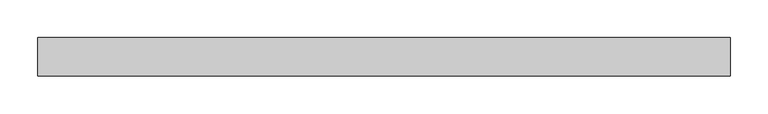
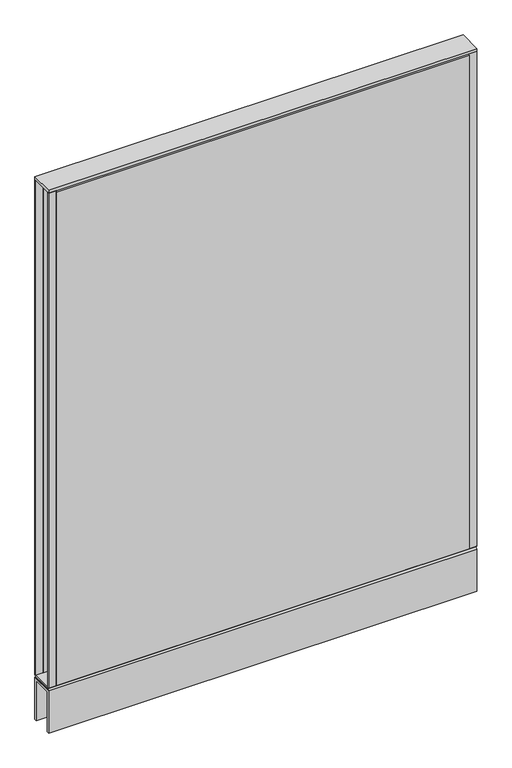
"""IFC4 building model written with IfcOpenShell, lengths in millimetres: furniture geometry, Steelcase - Kick Solutions - Panel - Monolithic - Tackable Acoustical : 48H x 36W."""

from ifc_helpers import new_model, si_unit, frame, origin, place, context, project, spatial, polyline, outline, extrude, source, transform, mapped, element, save


def furniture_d5b07146(model_context):
    return source(origin(), model_context, "Body", "SweptSolid", [
        extrude(outline(polyline([(0.0, 101.7169049), (-3.1750015, 101.7169049), (-3.1750015, 1219.3169018), (0.0, 1216.2357466), (0.0, 101.7169049)])), frame((15.8749996, 0.0, 0.0), z_axis=(1.0, 0.0, 0.0), x_axis=(0.0, 1.0, 0.0)), (0.0, 0.0, 1.0), 882.6500008),
        extrude(outline(polyline([(-50.8000015, 101.7169049), (-50.8000015, 1216.2357466), (-47.625, 1219.3169018), (-47.625, 101.7169049), (-50.8000015, 101.7169049)])), frame((15.8749996, 0.0, 0.0), z_axis=(1.0, 0.0, 0.0), x_axis=(0.0, 1.0, 0.0)), (0.0, 0.0, 1.0), 882.6500008),
        extrude(outline(polyline([(914.4, -3.1750015), (898.5250004, -3.1750015), (898.5250004, 0.0), (914.4, 0.0), (914.4, -3.1750015)])), frame((0.0, 0.0, 101.7169049), z_axis=(0.0, 0.0, 1.0), x_axis=(1.0, 0.0, 0.0)), (0.0, 0.0, 1.0), 1117.599997),
        extrude(outline(polyline([(15.8749996, -50.8000015), (0.0, -50.8000015), (0.0, -47.625), (15.8749996, -47.625), (15.8749996, -50.8000015)])), frame((0.0, 0.0, 101.7169049), z_axis=(0.0, 0.0, 1.0), x_axis=(1.0, 0.0, 0.0)), (0.0, 0.0, 1.0), 1117.599997),
        extrude(outline(polyline([(-50.7995075, 101.7169049), (-0.000494, 101.7169049), (-3.0583512, 98.5421458), (-47.7416503, 98.5421458), (-50.7995075, 101.7169049)])), frame((0.0, 0.0, 0.0), z_axis=(1.0, 0.0, 0.0), x_axis=(0.0, 1.0, 0.0)), (0.0, 0.0, 1.0), 914.4),
        extrude(outline(polyline([(914.4, 0.0), (914.4, -50.8000015), (0.0, -50.8000015), (0.0, 0.0), (914.4, 0.0)])), frame((0.0, 0.0, 1219.3169018), z_axis=(0.0, 0.0, 1.0), x_axis=(1.0, 0.0, 0.0)), (0.0, 0.0, 1.0), 6.35),
        extrude(outline(polyline([(15.8749996, -3.1750015), (0.0, -3.1750015), (0.0, 0.0), (15.8749996, 0.0), (15.8749996, -3.1750015)])), frame((0.0, 0.0, 101.7169049), z_axis=(0.0, 0.0, 1.0), x_axis=(1.0, 0.0, 0.0)), (0.0, 0.0, 1.0), 1117.599997),
        extrude(outline(polyline([(914.4, -50.8000015), (898.5250004, -50.8000015), (898.5250004, -47.625), (914.4, -47.625), (914.4, -50.8000015)])), frame((0.0, 0.0, 101.7169049), z_axis=(0.0, 0.0, 1.0), x_axis=(1.0, 0.0, 0.0)), (0.0, 0.0, 1.0), 1117.599997),
        extrude(outline(polyline([(-50.8000015, 95.3668927), (-47.6247484, 98.5421458), (-3.1752531, 98.5421458), (0.0, 95.3668927), (-50.8000015, 95.3668927)])), frame((0.0, 0.0, 0.0), z_axis=(1.0, 0.0, 0.0), x_axis=(0.0, 1.0, 0.0)), (0.0, 0.0, 1.0), 914.4),
        extrude(outline(polyline([(0.0, 0.0), (-5.08, 0.0), (-5.08, 90.2869018), (-45.7200015, 90.2869018), (-45.7200015, 0.0), (-50.8000015, 0.0), (-50.8000015, 95.3669018), (0.0, 95.3669018), (0.0, 0.0)])), frame((0.0, 0.0, 0.0), z_axis=(1.0, 0.0, 0.0), x_axis=(0.0, 1.0, 0.0)), (0.0, 0.0, 1.0), 914.4),
    ])


if __name__ == "__main__":
    model = new_model("IFC4")
    model_context = context("Model", 3, world=origin())
    ifc_project = project(units=[si_unit("LENGTHUNIT", "METRE", prefix="MILLI")], contexts=[model_context])
    site = spatial("IfcSite", under=ifc_project)
    building = spatial("IfcBuilding", under=site)
    placement = place(None, origin())
    furniture_shape = furniture_d5b07146(model_context)
    element("IfcFurniture", 1, ObjectType="Steelcase - Kick Solutions - Panel - Monolithic - Tackable Acoustical : 48H x 36W", at=placement, inside=building, context=model_context, shape_type="MappedRepresentation", body=[
        mapped(furniture_shape, transform((0.0, 0.0, 0.0), x_axis=(1.0, 0.0, 0.0), y_axis=(0.0, 1.0, 0.0), z_axis=(0.0, 0.0, 1.0))),
    ])
    save(model, "model.ifc")
